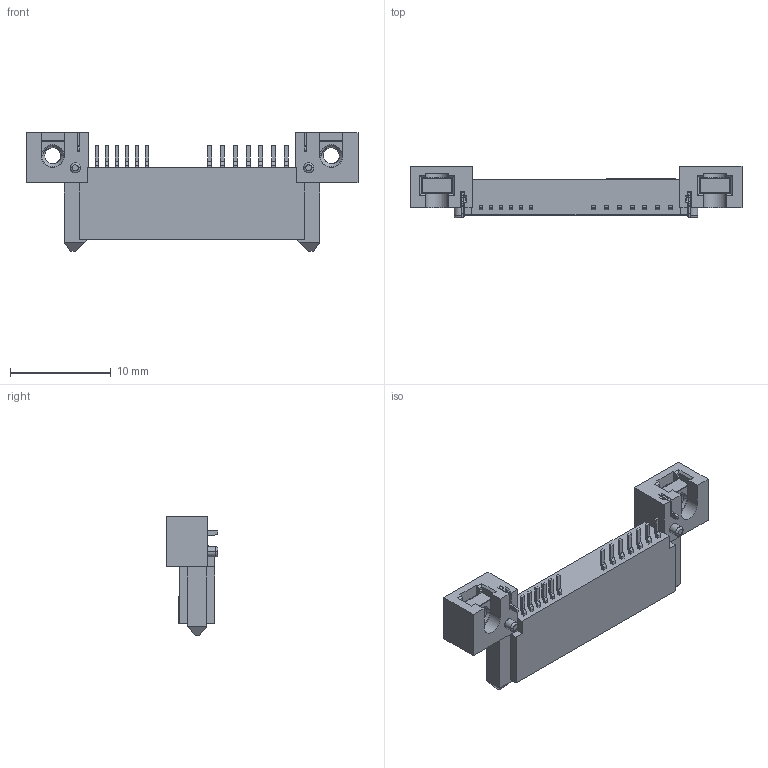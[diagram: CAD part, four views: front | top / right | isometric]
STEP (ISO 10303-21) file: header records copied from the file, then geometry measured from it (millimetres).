
FILE_DESCRIPTION((''),'2;1');
FILE_NAME('S-50870-013XX-XXX','2019-10-09T',('k72474'),(''),'PRO/ENGINEER BY PARAMETRIC TECHNOLOGY CORPORATION, 2009360','PRO/ENGINEER BY PARAMETRIC TECHNOLOGY CORPORATION, 2009360','');
FILE_SCHEMA(('CONFIG_CONTROL_DESIGN'));
Length unit declared in the file: millimetre
Products named in the file (1): S-50870-013XX-XXX
Bounding box: 33 x 5.15 x 11.8 mm (x, y, z)
Volume: 637 mm3; surface area: 1322.5 mm2
Topology: 1 solids, 1 shells, 772 faces, 2120 edges, 1377 vertices
Faces by surface type: plane 584, cylinder 142, bspline 34, cone 8, torus 4
Entity records: 27047 total; most frequent: CARTESIAN_POINT 7326, ORIENTED_EDGE 4240, DIRECTION 3810, EDGE_CURVE 2120, VECTOR 1722, LINE 1722, VERTEX_POINT 1377, AXIS2_PLACEMENT_3D 1044
